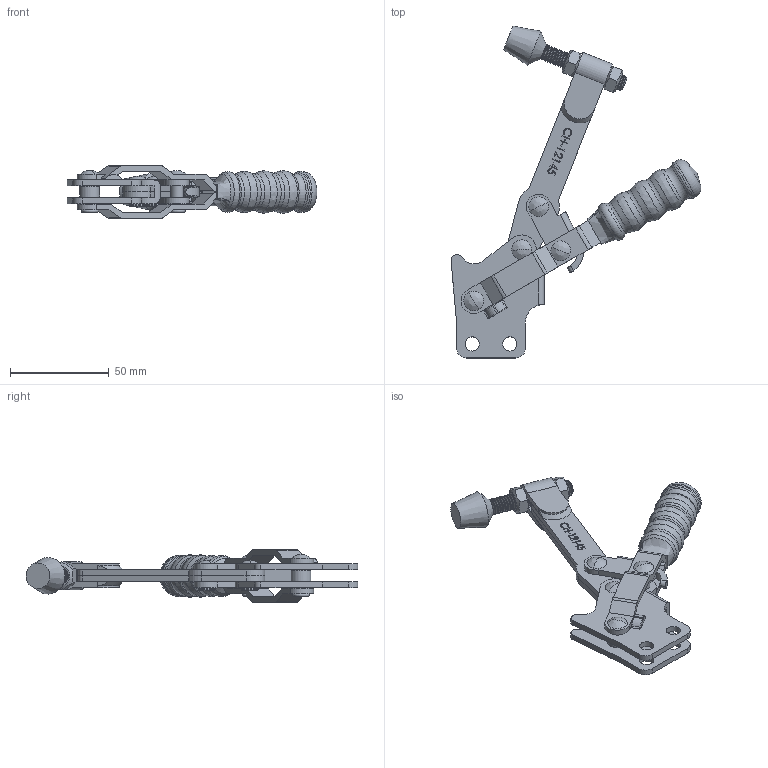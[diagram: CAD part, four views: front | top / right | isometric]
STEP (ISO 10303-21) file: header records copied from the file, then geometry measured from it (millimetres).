
FILE_DESCRIPTION(/* description */ ('STEP AP203'),/* implementation_level */ '2;1');
FILE_NAME(/* name */ 'D:\Vault_2016\Projekty\NASZ KATALOG\CLAMPTEK\STRONA\Vertical toggle clamp\CH-12145\CH-12145_OTWARTY.stp',/* time_stamp */ '2019-01-18T12:26:26+01:00',/* author */ ('CADENGINEERING4'),/* organization */ ('Î¢ÈíÖÐ¹ú'),/* preprocessor_version */ 'ST-DEVELOPER v17.2',/* originating_system */ 'Autodesk Inventor 2019',/* authorisation */ '');
FILE_SCHEMA (('AUTOMOTIVE_DESIGN { 1 0 10303 214 3 1 1 }'));
Products named in the file (11): CH-12145_OTWARTY; CH-12145-01 STRAIGHT BASE; CH-12145-02 SHORT SOLID BAR_Ä¬ÈÏ_°
´¼Ó¹¤_; CH-FC-56212 SPINDLE SUPPLIED; CH-12130-06; CH-12130-07; CH-FC-56212 Nut; CH-12130-05; CH-12130-04 CONNECTING-PLATE; CH-12130-03 STRAIGHT HANDLE; CH-12130-08
Assembly tree (13 placements, depth 2):
  CH-12145_OTWARTY
    CH-12145-01 STRAIGHT BASE
    CH-12145-02 SHORT SOLID BAR_Ä¬ÈÏ_°
´¼Ó¹¤_
    CH-FC-56212 SPINDLE SUPPLIED
    CH-12130-06  x2
    CH-FC-56212 Nut  x2
    CH-12130-08  x2
    CH-12130-07
    CH-12130-05
    CH-12130-04 CONNECTING-PLATE
    CH-12130-03 STRAIGHT HANDLE
Bounding box: 126.79 x 168.44 x 26.8 mm (x, y, z)
Volume: 60295.6 mm3; surface area: 45665.7 mm2
Topology: 19 solids, 19 shells, 684 faces, 1907 edges, 1284 vertices
Faces by surface type: plane 301, bspline 178, cylinder 148, cone 32, torus 25
Full cylindrical faces by diameter (mm): 1.55 x1, 1.744 x1, 3.9 x2, 6.3 x6, 6.4 x20, 6.8 x1, 7.2 x4, 7.92 x32, 8.4 x2, 10 x1, 20.847 x1
Entity records: 45472 total; most frequent: CARTESIAN_POINT 29425, ORIENTED_EDGE 3584, DIRECTION 2699, EDGE_CURVE 1792, VERTEX_POINT 1212, LINE 973, VECTOR 973, AXIS2_PLACEMENT_3D 863
